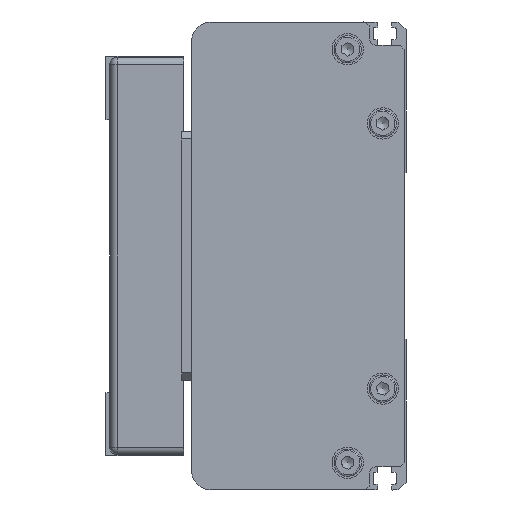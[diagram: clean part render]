
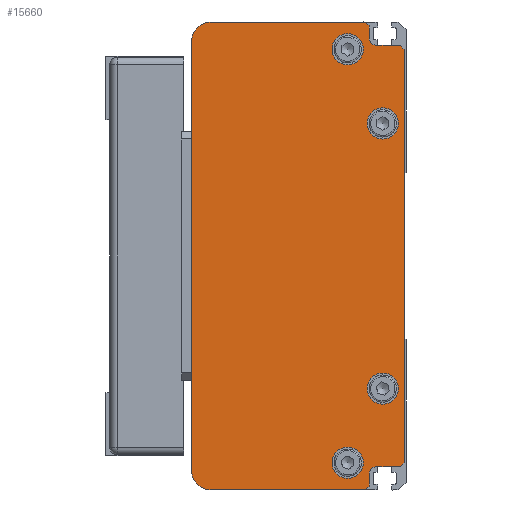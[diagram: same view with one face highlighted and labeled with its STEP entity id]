
A CAD part, left-side view. The second image highlights one B-rep face of the part: STEP entity #15660.
In plain terms, the highlighted planar face has unit normal (-1, 0, 0) as drawn and (0, 0, -1) by its records, which use the part's own axes.
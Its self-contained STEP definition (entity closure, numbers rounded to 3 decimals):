
#822=FACE_BOUND('',#2585,.T.);
#823=FACE_BOUND('',#2586,.T.);
#824=FACE_BOUND('',#2587,.T.);
#825=FACE_BOUND('',#2588,.T.);
#1132=CIRCLE('',#16784,5.);
#1133=CIRCLE('',#16786,5.);
#1134=CIRCLE('',#16787,2.);
#1135=CIRCLE('',#16788,2.);
#1136=CIRCLE('',#16789,4.);
#1137=CIRCLE('',#16790,4.);
#1138=CIRCLE('',#16791,4.);
#1139=CIRCLE('',#16792,4.);
#1560=FACE_OUTER_BOUND('',#2584,.T.);
#2584=EDGE_LOOP('',(#10778,#10779,#10780,#10781,#10782,#10783,#10784,#10785,
#10786,#10787,#10788,#10789,#10790,#10791,#10792,#10793));
#2585=EDGE_LOOP('',(#10794));
#2586=EDGE_LOOP('',(#10795));
#2587=EDGE_LOOP('',(#10796));
#2588=EDGE_LOOP('',(#10797));
#3825=LINE('',#22424,#5327);
#3826=LINE('',#22426,#5328);
#3827=LINE('',#22429,#5329);
#3828=LINE('',#22431,#5330);
#3829=LINE('',#22433,#5331);
#3830=LINE('',#22435,#5332);
#3831=LINE('',#22439,#5333);
#3832=LINE('',#22441,#5334);
#3833=LINE('',#22443,#5335);
#3834=LINE('',#22445,#5336);
#3835=LINE('',#22447,#5337);
#3836=LINE('',#22450,#5338);
#5327=VECTOR('',#18296,1.414);
#5328=VECTOR('',#18297,39.5);
#5329=VECTOR('',#18300,110.);
#5330=VECTOR('',#18301,39.5);
#5331=VECTOR('',#18302,1.414);
#5332=VECTOR('',#18303,3.);
#5333=VECTOR('',#18306,6.);
#5334=VECTOR('',#18307,1.414);
#5335=VECTOR('',#18308,106.);
#5336=VECTOR('',#18309,1.414);
#5337=VECTOR('',#18310,6.);
#5338=VECTOR('',#18313,3.);
#6859=VERTEX_POINT('',#22416);
#6860=VERTEX_POINT('',#22418);
#6861=VERTEX_POINT('',#22422);
#6862=VERTEX_POINT('',#22423);
#6863=VERTEX_POINT('',#22425);
#6864=VERTEX_POINT('',#22427);
#6865=VERTEX_POINT('',#22430);
#6866=VERTEX_POINT('',#22432);
#6867=VERTEX_POINT('',#22434);
#6868=VERTEX_POINT('',#22436);
#6869=VERTEX_POINT('',#22438);
#6870=VERTEX_POINT('',#22440);
#6871=VERTEX_POINT('',#22442);
#6872=VERTEX_POINT('',#22444);
#6873=VERTEX_POINT('',#22446);
#6874=VERTEX_POINT('',#22448);
#6875=VERTEX_POINT('',#22451);
#6876=VERTEX_POINT('',#22453);
#6877=VERTEX_POINT('',#22455);
#6878=VERTEX_POINT('',#22457);
#8418=EDGE_CURVE('',#6859,#6860,#1132,.T.);
#8420=EDGE_CURVE('',#6861,#6862,#3825,.T.);
#8421=EDGE_CURVE('',#6861,#6863,#3826,.T.);
#8422=EDGE_CURVE('',#6864,#6863,#1133,.T.);
#8423=EDGE_CURVE('',#6864,#6860,#3827,.T.);
#8424=EDGE_CURVE('',#6859,#6865,#3828,.T.);
#8425=EDGE_CURVE('',#6866,#6865,#3829,.T.);
#8426=EDGE_CURVE('',#6866,#6867,#3830,.T.);
#8427=EDGE_CURVE('',#6867,#6868,#1134,.T.);
#8428=EDGE_CURVE('',#6868,#6869,#3831,.T.);
#8429=EDGE_CURVE('',#6870,#6869,#3832,.T.);
#8430=EDGE_CURVE('',#6870,#6871,#3833,.T.);
#8431=EDGE_CURVE('',#6872,#6871,#3834,.T.);
#8432=EDGE_CURVE('',#6872,#6873,#3835,.T.);
#8433=EDGE_CURVE('',#6873,#6874,#1135,.T.);
#8434=EDGE_CURVE('',#6874,#6862,#3836,.T.);
#8435=EDGE_CURVE('',#6875,#6875,#1136,.T.);
#8436=EDGE_CURVE('',#6876,#6876,#1137,.T.);
#8437=EDGE_CURVE('',#6877,#6877,#1138,.T.);
#8438=EDGE_CURVE('',#6878,#6878,#1139,.T.);
#10778=ORIENTED_EDGE('',*,*,#8420,.F.);
#10779=ORIENTED_EDGE('',*,*,#8421,.T.);
#10780=ORIENTED_EDGE('',*,*,#8422,.F.);
#10781=ORIENTED_EDGE('',*,*,#8423,.T.);
#10782=ORIENTED_EDGE('',*,*,#8418,.F.);
#10783=ORIENTED_EDGE('',*,*,#8424,.T.);
#10784=ORIENTED_EDGE('',*,*,#8425,.F.);
#10785=ORIENTED_EDGE('',*,*,#8426,.T.);
#10786=ORIENTED_EDGE('',*,*,#8427,.T.);
#10787=ORIENTED_EDGE('',*,*,#8428,.T.);
#10788=ORIENTED_EDGE('',*,*,#8429,.F.);
#10789=ORIENTED_EDGE('',*,*,#8430,.T.);
#10790=ORIENTED_EDGE('',*,*,#8431,.F.);
#10791=ORIENTED_EDGE('',*,*,#8432,.T.);
#10792=ORIENTED_EDGE('',*,*,#8433,.T.);
#10793=ORIENTED_EDGE('',*,*,#8434,.T.);
#10794=ORIENTED_EDGE('',*,*,#8435,.T.);
#10795=ORIENTED_EDGE('',*,*,#8436,.T.);
#10796=ORIENTED_EDGE('',*,*,#8437,.T.);
#10797=ORIENTED_EDGE('',*,*,#8438,.T.);
#15040=PLANE('',#16785);
#15660=ADVANCED_FACE('',(#1560,#822,#823,#824,#825),#15040,.F.);
#16784=AXIS2_PLACEMENT_3D('',#22419,#18291,#18292);
#16785=AXIS2_PLACEMENT_3D('',#22421,#18294,#18295);
#16786=AXIS2_PLACEMENT_3D('',#22428,#18298,#18299);
#16787=AXIS2_PLACEMENT_3D('',#22437,#18304,#18305);
#16788=AXIS2_PLACEMENT_3D('',#22449,#18311,#18312);
#16789=AXIS2_PLACEMENT_3D('',#22452,#18314,#18315);
#16790=AXIS2_PLACEMENT_3D('',#22454,#18316,#18317);
#16791=AXIS2_PLACEMENT_3D('',#22456,#18318,#18319);
#16792=AXIS2_PLACEMENT_3D('',#22458,#18320,#18321);
#18291=DIRECTION('center_axis',(0.,0.,
1.));
#18292=DIRECTION('ref_axis',(0.707,0.707,0.));
#18294=DIRECTION('center_axis',(0.,0.,
1.));
#18295=DIRECTION('ref_axis',(-1.,-0.018,0.));
#18296=DIRECTION('',(0.707,-0.707,0.));
#18297=DIRECTION('',(0.,1.,0.));
#18298=DIRECTION('center_axis',(0.,0.,
1.));
#18299=DIRECTION('ref_axis',(-0.707,0.707,0.));
#18300=DIRECTION('',(1.,0.,0.));
#18301=DIRECTION('',(0.,-1.,0.));
#18302=DIRECTION('',(0.707,0.707,0.));
#18303=DIRECTION('',(-1.,0.,0.));
#18304=DIRECTION('center_axis',(0.,0.,
1.));
#18305=DIRECTION('ref_axis',(0.,-1.,0.));
#18306=DIRECTION('',(0.,-1.,0.));
#18307=DIRECTION('',(0.707,0.707,0.));
#18308=DIRECTION('',(-1.,0.,0.));
#18309=DIRECTION('',(0.707,-0.707,0.));
#18310=DIRECTION('',(0.,1.,0.));
#18311=DIRECTION('center_axis',(0.,0.,
1.));
#18312=DIRECTION('ref_axis',(1.,0.,0.));
#18313=DIRECTION('',(-1.,0.,0.));
#18314=DIRECTION('center_axis',(0.,0.,
1.));
#18315=DIRECTION('ref_axis',(0.,1.,0.));
#18316=DIRECTION('center_axis',(0.,0.,
1.));
#18317=DIRECTION('ref_axis',(0.,1.,0.));
#18318=DIRECTION('center_axis',(0.,0.,
1.));
#18319=DIRECTION('ref_axis',(0.,1.,0.));
#18320=DIRECTION('center_axis',(0.,0.,
1.));
#18321=DIRECTION('ref_axis',(0.,1.,0.));
#22416=CARTESIAN_POINT('',(124.75,50.75,-642.5));
#22418=CARTESIAN_POINT('',(119.75,55.75,-642.5));
#22419=CARTESIAN_POINT('Origin',(119.75,50.75,-642.5));
#22421=CARTESIAN_POINT('Origin',(64.75,28.5,-642.5));
#22422=CARTESIAN_POINT('',(4.75,11.25,-642.5));
#22423=CARTESIAN_POINT('',(5.75,10.25,-642.5));
#22424=CARTESIAN_POINT('',(4.75,11.25,-642.5));
#22425=CARTESIAN_POINT('',(4.75,50.75,-642.5));
#22426=CARTESIAN_POINT('',(4.75,11.25,-642.5));
#22427=CARTESIAN_POINT('',(9.75,55.75,-642.5));
#22428=CARTESIAN_POINT('Origin',(9.75,50.75,-642.5));
#22429=CARTESIAN_POINT('',(9.75,55.75,-642.5));
#22430=CARTESIAN_POINT('',(124.75,11.25,-642.5));
#22431=CARTESIAN_POINT('',(124.75,50.75,-642.5));
#22432=CARTESIAN_POINT('',(123.75,10.25,-642.5));
#22433=CARTESIAN_POINT('',(123.75,10.25,-642.5));
#22434=CARTESIAN_POINT('',(120.75,10.25,-642.5));
#22435=CARTESIAN_POINT('',(123.75,10.25,-642.5));
#22436=CARTESIAN_POINT('',(118.75,8.25,-642.5));
#22437=CARTESIAN_POINT('Origin',(120.75,8.25,-642.5));
#22438=CARTESIAN_POINT('',(118.75,2.25,-642.5));
#22439=CARTESIAN_POINT('',(118.75,8.25,-642.5));
#22440=CARTESIAN_POINT('',(117.75,1.25,-642.5));
#22441=CARTESIAN_POINT('',(117.75,1.25,-642.5));
#22442=CARTESIAN_POINT('',(11.75,1.25,-642.5));
#22443=CARTESIAN_POINT('',(117.75,1.25,-642.5));
#22444=CARTESIAN_POINT('',(10.75,2.25,-642.5));
#22445=CARTESIAN_POINT('',(10.75,2.25,-642.5));
#22446=CARTESIAN_POINT('',(10.75,8.25,-642.5));
#22447=CARTESIAN_POINT('',(10.75,2.25,-642.5));
#22448=CARTESIAN_POINT('',(8.75,10.25,-642.5));
#22449=CARTESIAN_POINT('Origin',(8.75,8.25,-642.5));
#22450=CARTESIAN_POINT('',(8.75,10.25,-642.5));
#22451=CARTESIAN_POINT('',(30.75,10.75,-642.5));
#22452=CARTESIAN_POINT('Origin',(30.75,6.75,-642.5));
#22453=CARTESIAN_POINT('',(98.75,10.75,-642.5));
#22454=CARTESIAN_POINT('Origin',(98.75,6.75,-642.5));
#22455=CARTESIAN_POINT('',(11.75,19.75,-642.5));
#22456=CARTESIAN_POINT('Origin',(11.75,15.75,-642.5));
#22457=CARTESIAN_POINT('',(117.75,19.75,-642.5));
#22458=CARTESIAN_POINT('Origin',(117.75,15.75,-642.5));
